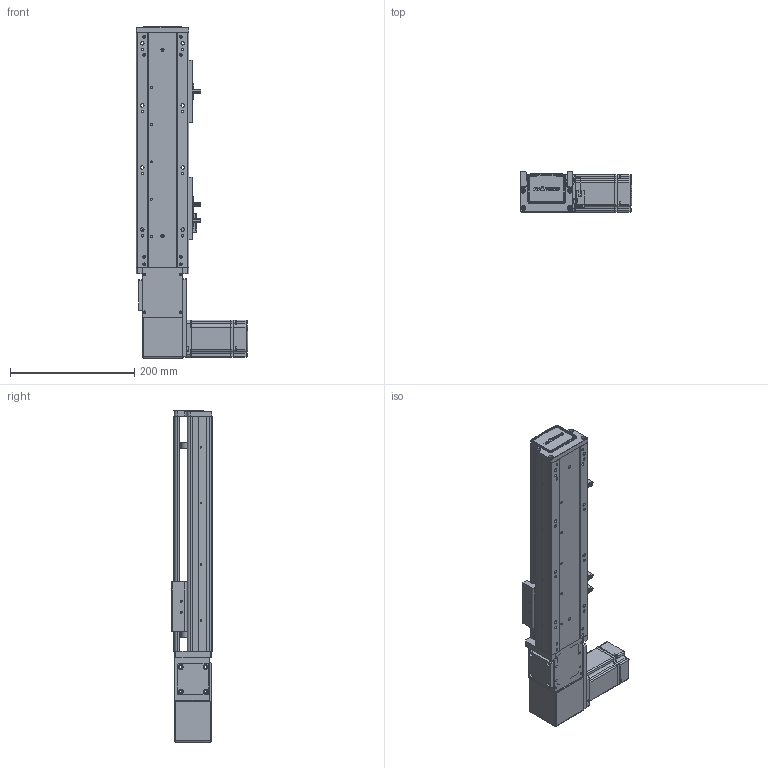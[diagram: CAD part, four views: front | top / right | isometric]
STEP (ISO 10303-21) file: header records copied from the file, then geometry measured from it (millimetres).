
FILE_DESCRIPTION (( 'STEP AP203' ), '1' );
FILE_NAME ('RY80-T-300-RK.SLDASM_200.step', '2021-03-01T02:06:23', ( '盈信电脑' ), ( '东莞市道滘镇水果街19号' ), 'SwSTEP 2.0', 'SolidWorks 2012', '' );
FILE_SCHEMA (( 'CONFIG_CONTROL_DESIGN' ));
Length unit declared in the file: millimetre
Products named in the file (20): RY80-T-300-RK.SLDASM_200; RY100-T粣創揤踡裔; 滅袉蝶18-10; RY80-T粣創揤踡輸; RY80-T肮祭謫俋欶; RY80-T-M4蹟翐; RY80-T翋肮祭謫裔啣; RY80-T肮祭湍揤輸2; RY80-T萇儂假蚾啣; RY80-T肮祭湍揤輸1; RY80俋离覜茼え; RY80-T-翋肮祭謫釱; 侂狟200W萇儂; 1; 覜茼ん672; RY80-T綴裔啣; RY80-T-300-RK倰第奻裔啣_200; 672嫖萇羲壽假蚾釱; RY80-T肮祭謫臏賑輸; RY80-T-300-RK倰第菁釱_200
Assembly tree (25 placements, depth 3):
  RY80-T-300-RK.SLDASM_200
    RY80-T-300-RK倰第菁釱_200
    RY80-T肮祭謫臏賑輸
    RY80-T-300-RK倰第奻裔啣_200
    RY80-T綴裔啣
    672嫖萇羲壽假蚾釱  x2
    覜茼ん672  x3
    RY80俋离覜茼え
    侂狟200W萇儂
      1
    RY80-T-翋肮祭謫釱
    RY80-T萇儂假蚾啣
    RY80-T肮祭湍揤輸1
    RY80-T肮祭湍揤輸2
    RY80-T粣創揤踡輸
    RY80-T-M4蹟翐  x2
    RY80-T翋肮祭謫裔啣  x2
    RY80-T肮祭謫俋欶
    滅袉蝶18-10  x2
    RY100-T粣創揤踡裔
Bounding box: 180 x 65 x 535 mm (x, y, z)
Volume: 1157310 mm3; surface area: 449140.2 mm2
Topology: 24 solids, 24 shells, 2358 faces, 6455 edges, 4193 vertices
Faces by surface type: plane 1310, cylinder 847, cone 145, bspline 56
Entity records: 72596 total; most frequent: CARTESIAN_POINT 16703, ORIENTED_EDGE 11354, DIRECTION 10828, EDGE_CURVE 5677, VERTEX_POINT 3734, LINE 3622, VECTOR 3622, AXIS2_PLACEMENT_3D 3603
